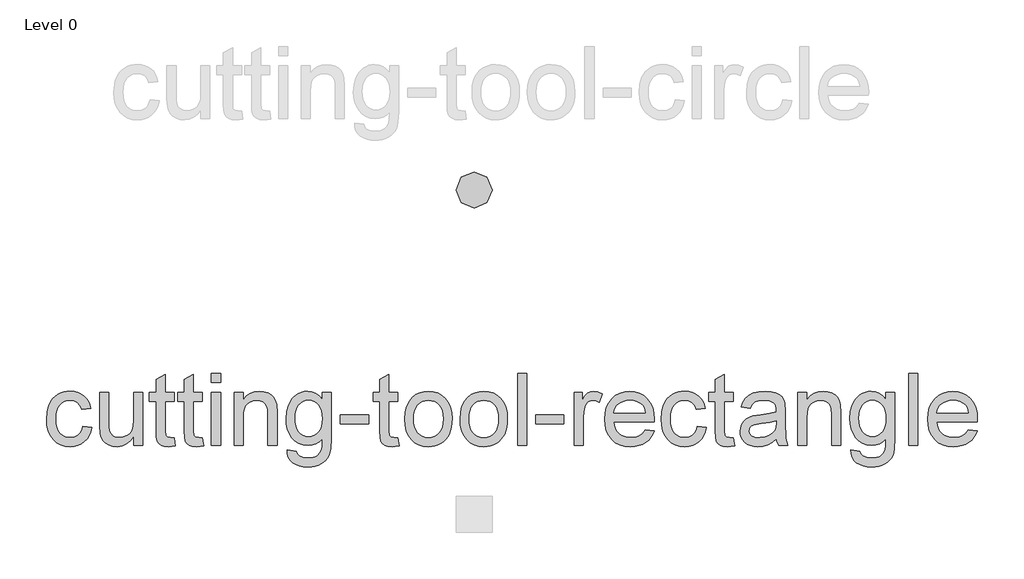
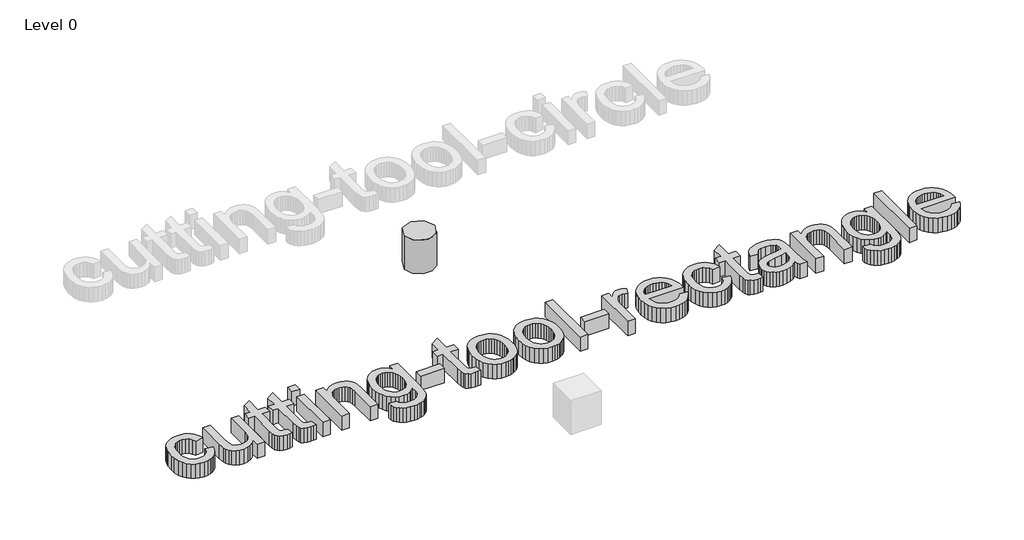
# One storey, part 2 of 3: 2 proxies.
"""IFC4 building model written with IfcOpenShell, lengths in millimetres."""

from ifc_helpers import new_model, si_unit, origin, origin_with_axes, place, context, project, spatial, polyline, outline, extrude, transform, mapped, element, save
from components import kingspan_ks_cutting_tool_circle_cutting_tool_circle_f6fe257a

model = new_model("IFC4")

# Units and contexts
model_context = context("Model", 3, world=origin())
ifc_project = project(units=[si_unit("LENGTHUNIT", "METRE", prefix="MILLI")], contexts=[model_context])

# Site, building, storey
site = spatial("IfcSite", under=ifc_project)
building = spatial("IfcBuilding", under=site)
storey = spatial("IfcBuildingStorey", under=building, Name="Level 0", Elevation=0.0)

# Proxies
placement = place(None, origin())
element("IfcBuildingElementProxy", 1, Name="24\" Arial", ObjectType="24\" Arial", at=placement, inside=storey, context=model_context, shape_type="SweptSolid", body=[
    extrude(outline(polyline([(-396.2597045, 9648.2737674), (-320.117931, 9638.7560457), (-328.3994642, 9602.8275758), (-341.3469118, 9571.0352252), (-358.9602737, 9543.3789938), (-381.23955, 9519.8588818), (-407.2459809, 9501.0883359), (-436.0408069, 9487.6808032), (-467.6240279, 9479.6362835), (-501.9956439, 9476.954777), (-544.6999137, 9480.6958736), (-582.9892248, 9491.9191636), (-616.863577, 9510.6246469), (-646.3229705, 9536.8123235), (-670.1683953, 9569.989577), (-687.2008416, 9609.6637909), (-697.4203093, 9655.8349652), (-700.8267986, 9708.5031), (-695.0083476, 9776.2610991), (-687.7352839, 9806.7521987), (-677.5529948, 9834.9846984), (-664.3917702, 9860.3916244), (-648.1819005, 9882.4060031), (-628.9233855, 9901.0278345), (-606.6162253, 9916.2571187), (-582.2688894, 9928.0985029), (-556.8898473, 9936.5566345), (-530.4790991, 9941.6315135), (-503.0366447, 9943.3231398), (-469.255239, 9940.9994772), (-438.6990768, 9934.0284897), (-411.3681582, 9922.4101771), (-387.2624832, 9906.1445394), (-366.7910164, 9885.6033627), (-350.3627224, 9861.158433), (-337.9776011, 9832.8097502), (-329.6356527, 9800.5573144), (-405.7774262, 9791.0395927), (-419.5892762, 9824.2586722), (-441.0970965, 9848.0715657), (-469.1111719, 9862.4039161), (-502.4417871, 9867.1813663), (-528.3134456, 9864.8298198), (-551.6476647, 9857.7751804), (-572.4444443, 9846.017448), (-590.7037843, 9829.5566227), (-605.5705772, 9808.0116238), (-616.1897149, 9781.0013706), (-622.5611975, 9748.5258632), (-624.6850251, 9710.5851016), (-622.6076708, 9672.0727189), (-616.3756079, 9639.2207782), (-605.9888364, 9612.0292794), (-591.4473564, 9590.4982224), (-573.5505076, 9574.134991), (-553.0976301, 9562.4469685), (-530.0887238, 9555.434155), (-504.5237887, 9553.0965505), (-465.0958831, 9558.9335908), (-448.0448475, 9566.2298911), (-432.7690901, 9576.4447115), (-419.6961647, 9589.6895879), (-409.2536253, 9606.076056), (-401.4414719, 9625.6041158), (-396.2597045, 9648.2737674)])), origin_with_axes(), (0.0, 0.0, 1.0), 152.4),
    extrude(outline(polyline([(32.0377715, 9486.4724987), (32.0377715, 9563.3578442), (4.4884287, 9525.5565023), (-27.5967034, 9498.5555438), (-64.2176248, 9482.3549687), (-105.3743354, 9476.954777), (-142.4599892, 9480.7469942), (-176.9803197, 9492.1236459), (-205.9424493, 9509.2258021), (-226.3535009, 9530.1945327), (-240.0909937, 9555.6618739), (-249.0324471, 9586.259862), (-253.4938792, 9657.0479171), (-253.4938792, 9933.8054181), (-177.3521057, 9933.8054181), (-177.3521057, 9692.8880878), (-176.199569, 9644.7046218), (-172.7419592, 9615.2591703), (-161.644147, 9589.3642751), (-142.6272929, 9569.6782063), (-116.9554694, 9557.2419644), (-85.8927488, 9553.0965505), (-53.0454554, 9557.3349109), (-22.3173422, 9570.0499923), (3.0198739, 9590.0706685), (19.6944762, 9616.2258139), (28.9519477, 9652.0473953), (32.0377715, 9701.0673799), (32.0377715, 9933.8054181), (108.179545, 9933.8054181), (108.179545, 9486.4724987), (32.0377715, 9486.4724987)])), origin_with_axes(), (0.0, 0.0, 1.0), 152.4),
    extrude(outline(polyline([(374.6757523, 9549.9735481), (384.193474, 9484.2417826), (354.0416291, 9478.7765284), (327.2358583, 9476.954777), (290.6892942, 9480.114958), (263.4373801, 9489.5955011), (244.1788651, 9504.206691), (231.6124982, 9522.7588126), (224.6972785, 9554.6208731), (222.3922053, 9609.1618798), (222.3922053, 9857.6636446), (165.2858752, 9857.6636446), (165.2858752, 9933.8054181), (222.3922053, 9933.8054181), (222.3922053, 10042.5156455), (298.5339788, 10087.2786803), (298.5339788, 9933.8054181), (374.6757523, 9933.8054181), (374.6757523, 9857.6636446), (298.5339788, 9857.6636446), (298.5339788, 9611.3925958), (302.5492677, 9572.1319939), (315.5617778, 9558.2271973), (326.5480542, 9554.3792122), (341.5124408, 9553.0965505), (374.6757523, 9549.9735481)])), origin_with_axes(), (0.0, 0.0, 1.0), 152.4),
    extrude(outline(polyline([(612.6187946, 9549.9735481), (622.1365163, 9484.2417826), (591.9846714, 9478.7765284), (565.1789005, 9476.954777), (528.6323364, 9480.114958), (501.3804223, 9489.5955011), (482.1219074, 9504.206691), (469.5555404, 9522.7588126), (462.6403208, 9554.6208731), (460.3352475, 9609.1618798), (460.3352475, 9857.6636446), (403.2289174, 9857.6636446), (403.2289174, 9933.8054181), (460.3352475, 9933.8054181), (460.3352475, 10042.5156455), (536.4770211, 10087.2786803), (536.4770211, 9933.8054181), (612.6187946, 9933.8054181), (612.6187946, 9857.6636446), (536.4770211, 9857.6636446), (536.4770211, 9611.3925958), (540.4923099, 9572.1319939), (553.50482, 9558.2271973), (564.4910964, 9554.3792122), (579.4554831, 9553.0965505), (612.6187946, 9549.9735481)])), origin_with_axes(), (0.0, 0.0, 1.0), 152.4),
    extrude(outline(polyline([(688.7605681, 10019.4649133), (688.7605681, 10095.6066868), (764.9023416, 10095.6066868), (764.9023416, 10019.4649133), (688.7605681, 10019.4649133)])), origin_with_axes(), (0.0, 0.0, 1.0), 152.4),
    extrude(outline(polyline([(688.7605681, 9486.4724987), (688.7605681, 9933.8054181), (764.9023416, 9933.8054181), (764.9023416, 9486.4724987), (688.7605681, 9486.4724987)])), origin_with_axes(), (0.0, 0.0, 1.0), 152.4),
    extrude(outline(polyline([(879.1150019, 9486.4724987), (879.1150019, 9933.8054181), (955.2567754, 9933.8054181), (955.2567754, 9871.3453695), (981.7093496, 9902.835644), (1013.4784636, 9925.3286972), (1050.5641174, 9938.8245291), (1092.9663111, 9943.3231398), (1130.4981082, 9939.6982262), (1164.8697242, 9928.8234856), (1193.5344251, 9912.0559369), (1213.9454766, 9890.7525989), (1227.7945053, 9864.9692395), (1236.7731373, 9834.7616267), (1240.7884261, 9761.1479981), (1240.7884261, 9486.4724987), (1164.6466526, 9486.4724987), (1164.6466526, 9750.8867044), (1162.4531152, 9790.2588421), (1155.8725029, 9818.2543282), (1143.7336899, 9838.3121831), (1124.8655502, 9853.8714273), (1100.6808707, 9863.8538815), (1072.5924381, 9867.1813663), (1049.471996, 9865.3131416), (1027.996707, 9859.7084676), (1008.166571, 9850.3673442), (989.9815881, 9837.2897716), (974.7894826, 9818.9886056), (963.9379786, 9793.9767022), (957.4270762, 9762.2540614), (955.2567754, 9723.8206833), (955.2567754, 9486.4724987), (879.1150019, 9486.4724987)])), origin_with_axes(), (0.0, 0.0, 1.0), 152.4),
    extrude(outline(polyline([(1326.4479213, 9448.4016119), (1402.5896948, 9438.8838902), (1410.9920585, 9415.089586), (1427.2762855, 9398.7310018), (1459.2870604, 9386.0159205), (1501.187343, 9381.7775601), (1545.8760206, 9386.5735995), (1563.926231, 9392.5686488), (1579.1136893, 9400.9617179), (1602.1644215, 9424.0124501), (1616.2922896, 9454.7963312), (1620.4191143, 9487.5506781), (1621.4972937, 9543.5788288), (1596.1600775, 9518.5948094), (1567.885752, 9500.7490812), (1536.674317, 9490.0416443), (1502.5257726, 9486.4724987), (1460.7788517, 9490.6272073), (1424.0231579, 9503.091333), (1392.2586913, 9523.864876), (1365.4854517, 9552.9478361), (1344.2425289, 9587.8399525), (1329.0690126, 9626.0409644), (1319.9649029, 9667.5508717), (1316.9301996, 9712.3696744), (1322.3768646, 9773.8444901), (1338.7168594, 9830.3745519), (1350.8277885, 9855.8651298), (1365.3739159, 9878.2791785), (1382.3552416, 9897.616698), (1401.7717656, 9913.8776883), (1423.3121172, 9926.7600733), (1446.6649255, 9935.9617769), (1471.8301907, 9941.4827991), (1498.8079125, 9943.3231398), (1534.415717, 9939.1591365), (1566.7332154, 9926.6671268), (1595.7604076, 9905.8471106), (1621.4972937, 9876.6990879), (1621.4972937, 9933.8054181), (1697.6390672, 9933.8054181), (1697.6390672, 9547.5941176), (1692.4340632, 9458.4212447), (1685.9278081, 9425.2532859), (1676.819051, 9399.6976455), (1664.8893676, 9379.0867589), (1649.9203337, 9360.7530616), (1631.9119491, 9344.6965536), (1610.864214, 9330.9172348), (1586.9909052, 9319.8566012), (1560.5057998, 9311.9561486), (1531.4088977, 9307.2158771), (1499.7001989, 9305.6357866), (1462.3961208, 9307.8618553), (1428.856376, 9314.5400614), (1399.0809644, 9325.6704048), (1373.0698861, 9341.2528857), (1352.0593296, 9361.3060933), (1337.2854833, 9385.8486168), (1328.7483472, 9414.8804564), (1326.4479213, 9448.4016119)]), holes=[polyline([(1393.0719731, 9717.5746784), (1395.1028542, 9679.9266983), (1401.1954973, 9647.7346777), (1411.3499025, 9620.9986167), (1425.5660698, 9599.7185153), (1442.8494717, 9583.485409), (1462.2055805, 9571.890333), (1483.6343963, 9564.9332874), (1507.135919, 9562.6142722), (1530.4050755, 9564.9193454), (1551.7316501, 9571.8345651), (1571.1156429, 9583.3599312), (1588.5570538, 9599.4954437), (1602.9684087, 9620.5664155), (1613.2622337, 9646.8981592), (1619.4385287, 9678.4906748), (1621.4972937, 9715.3439624), (1619.3781135, 9750.6589854), (1613.0205728, 9781.3545673), (1602.4246717, 9807.4307082), (1587.5904102, 9828.8874079), (1569.7725659, 9845.6410147), (1550.2259168, 9857.6078767), (1528.9504628, 9864.7879939), (1505.9462038, 9867.1813663), (1483.3276728, 9864.8251725), (1462.4658307, 9857.7565911), (1443.3606774, 9845.9756221), (1426.012213, 9829.4822655), (1411.6008581, 9808.3508785), (1401.3070331, 9782.6558184), (1395.1307381, 9752.397085), (1393.0719731, 9717.5746784)])]), origin_with_axes(), (0.0, 0.0, 1.0), 152.4),
    extrude(outline(polyline([(1773.7808407, 9667.3092108), (1773.7808407, 9743.4509843), (2011.723883, 9743.4509843), (2011.723883, 9667.3092108), (1773.7808407, 9667.3092108)])), origin_with_axes(), (0.0, 0.0, 1.0), 152.4),
    extrude(outline(polyline([(2259.1846469, 9549.9735481), (2268.7023686, 9484.2417826), (2238.5505237, 9478.7765284), (2211.7447528, 9476.954777), (2175.1981887, 9480.114958), (2147.9462746, 9489.5955011), (2128.6877597, 9504.206691), (2116.1213927, 9522.7588126), (2109.2061731, 9554.6208731), (2106.9010999, 9609.1618798), (2106.9010999, 9857.6636446), (2049.7947697, 9857.6636446), (2049.7947697, 9933.8054181), (2106.9010999, 9933.8054181), (2106.9010999, 10042.5156455), (2183.0428734, 10087.2786803), (2183.0428734, 9933.8054181), (2259.1846469, 9933.8054181), (2259.1846469, 9857.6636446), (2183.0428734, 9857.6636446), (2183.0428734, 9611.3925958), (2187.0581622, 9572.1319939), (2200.0706723, 9558.2271973), (2211.0569487, 9554.3792122), (2226.0213354, 9553.0965505), (2259.1846469, 9549.9735481)])), origin_with_axes(), (0.0, 0.0, 1.0), 152.4),
    extrude(outline(polyline([(2316.290977, 9710.1389584), (2320.408507, 9768.0725124), (2332.761097, 9817.994078), (2353.3487469, 9859.9036552), (2382.1714568, 9893.8012441), (2411.1893544, 9915.4670735), (2443.2187186, 9930.9426659), (2478.2595495, 9940.2280213), (2516.3118469, 9943.3231398), (2558.319018, 9939.5541592), (2596.3016056, 9928.2472173), (2630.2596097, 9909.4023143), (2660.1930303, 9883.01945), (2684.624018, 9849.9909109), (2702.0747236, 9811.2089834), (2712.5451469, 9766.6736675), (2716.035288, 9716.3849632), (2714.4923761, 9675.6279226), (2709.8636403, 9639.4624391), (2702.1490808, 9607.8885128), (2691.3486974, 9580.9061436), (2677.5972626, 9557.5998085), (2661.0295488, 9537.0539844), (2641.645556, 9519.2686715), (2619.4452843, 9504.2438696), (2595.293136, 9492.3048916), (2570.0535137, 9483.7770501), (2543.7264173, 9478.6603453), (2516.3118469, 9476.954777), (2473.6912289, 9480.7098156), (2435.3554446, 9491.9749315), (2401.3044941, 9510.7501247), (2371.5383771, 9537.0353951), (2347.3676396, 9570.3845997), (2330.1028271, 9610.351595), (2319.7439395, 9656.9363813), (2316.290977, 9710.1389584)]), holes=[polyline([(2392.4327505, 9710.2876728), (2394.6355826, 9673.3553807), (2401.2440788, 9641.377137), (2412.2582392, 9614.3529419), (2427.6780637, 9592.2827953), (2446.4346676, 9575.1388132), (2467.4591661, 9562.8931117), (2490.7515592, 9555.5456908), (2516.3118469, 9553.0965505), (2541.7420096, 9555.5596328), (2564.9414562, 9562.9488796), (2585.9101868, 9575.264291), (2604.6482013, 9592.5058669), (2620.0680258, 9614.7944378), (2631.0821862, 9642.2508341), (2637.6906824, 9674.8750559), (2639.8935145, 9712.6671032), (2637.6767404, 9748.4282694), (2631.0264183, 9779.5699945), (2619.9425481, 9806.0922786), (2604.4251297, 9827.9951215), (2585.6174053, 9845.1391036), (2564.6626167, 9857.3848051), (2541.5607639, 9864.732226), (2516.3118469, 9867.1813663), (2490.7515592, 9864.7415206), (2467.4591661, 9857.4219837), (2446.4346676, 9845.2227554), (2427.6780637, 9828.1438359), (2412.2582392, 9806.1387518), (2401.2440788, 9779.1610299), (2394.6355826, 9747.2106702), (2392.4327505, 9710.2876728)])]), origin_with_axes(), (0.0, 0.0, 1.0), 152.4),
    extrude(outline(polyline([(2782.6593398, 9710.1389584), (2786.7768698, 9768.0725124), (2799.1294598, 9817.994078), (2819.7171097, 9859.9036552), (2848.5398196, 9893.8012441), (2877.5577172, 9915.4670735), (2909.5870814, 9930.9426659), (2944.6279122, 9940.2280213), (2982.6802097, 9943.3231398), (3024.6873808, 9939.5541592), (3062.6699684, 9928.2472173), (3096.6279725, 9909.4023143), (3126.5613931, 9883.01945), (3150.9923808, 9849.9909109), (3168.4430864, 9811.2089834), (3178.9135097, 9766.6736675), (3182.4036508, 9716.3849632), (3180.8607389, 9675.6279226), (3176.2320031, 9639.4624391), (3168.5174436, 9607.8885128), (3157.7170602, 9580.9061436), (3143.9656253, 9557.5998085), (3127.3979116, 9537.0539844), (3108.0139188, 9519.2686715), (3085.8136471, 9504.2438696), (3061.6614988, 9492.3048916), (3036.4218765, 9483.7770501), (3010.0947801, 9478.6603453), (2982.6802097, 9476.954777), (2940.0595917, 9480.7098156), (2901.7238074, 9491.9749315), (2867.6728568, 9510.7501247), (2837.9067399, 9537.0353951), (2813.7360024, 9570.3845997), (2796.4711899, 9610.351595), (2786.1123023, 9656.9363813), (2782.6593398, 9710.1389584)]), holes=[polyline([(2858.8011133, 9710.2876728), (2861.0039454, 9673.3553807), (2867.6124416, 9641.377137), (2878.626602, 9614.3529419), (2894.0464265, 9592.2827953), (2912.8030303, 9575.1388132), (2933.8275288, 9562.8931117), (2957.119922, 9555.5456908), (2982.6802097, 9553.0965505), (3008.1103723, 9555.5596328), (3031.309819, 9562.9488796), (3052.2785496, 9575.264291), (3071.0165641, 9592.5058669), (3086.4363886, 9614.7944378), (3097.450549, 9642.2508341), (3104.0590452, 9674.8750559), (3106.2618773, 9712.6671032), (3104.0451032, 9748.4282694), (3097.3947811, 9779.5699945), (3086.3109109, 9806.0922786), (3070.7934925, 9827.9951215), (3051.9857681, 9845.1391036), (3031.0309795, 9857.3848051), (3007.9291267, 9864.732226), (2982.6802097, 9867.1813663), (2957.119922, 9864.7415206), (2933.8275288, 9857.4219837), (2912.8030303, 9845.2227554), (2894.0464265, 9828.1438359), (2878.626602, 9806.1387518), (2867.6124416, 9779.1610299), (2861.0039454, 9747.2106702), (2858.8011133, 9710.2876728)])]), origin_with_axes(), (0.0, 0.0, 1.0), 152.4),
    extrude(outline(polyline([(3268.063146, 9486.4724987), (3268.063146, 10095.6066868), (3344.2049195, 10095.6066868), (3344.2049195, 9486.4724987), (3268.063146, 9486.4724987)])), origin_with_axes(), (0.0, 0.0, 1.0), 152.4),
    extrude(outline(polyline([(3420.346693, 9667.3092108), (3420.346693, 9743.4509843), (3658.2897353, 9743.4509843), (3658.2897353, 9667.3092108), (3420.346693, 9667.3092108)])), origin_with_axes(), (0.0, 0.0, 1.0), 152.4),
    extrude(outline(polyline([(3743.9492305, 9486.4724987), (3743.9492305, 9933.8054181), (3810.5732823, 9933.8054181), (3810.5732823, 9867.6275095), (3835.1855157, 9905.995825), (3857.8644619, 9928.600414), (3880.6177654, 9939.6424583), (3905.4530704, 9943.3231398), (3943.3752428, 9937.4489209), (3981.8922727, 9919.8262644), (3956.4621101, 9851.5663541), (3929.6935178, 9863.2776132), (3902.9249256, 9867.1813663), (3880.1902115, 9863.4263276), (3859.8721064, 9852.1612117), (3843.4577543, 9834.2411263), (3832.4342993, 9810.5211793), (3823.1768278, 9767.9888605), (3820.091004, 9721.5899673), (3820.091004, 9486.4724987), (3743.9492305, 9486.4724987)])), origin_with_axes(), (0.0, 0.0, 1.0), 152.4),
    extrude(outline(polyline([(4342.6734105, 9619.7206023), (4417.32804, 9610.2028806), (4405.8816784, 9580.3019913), (4390.4293227, 9553.9516583), (4370.9709727, 9531.1518816), (4347.5066286, 9511.9026613), (4320.2779511, 9496.6129619), (4289.5266013, 9485.6917481), (4255.2525791, 9479.1390198), (4217.4558845, 9476.954777), (4170.2111781, 9480.7237576), (4128.1157079, 9492.0306994), (4091.1694738, 9510.8756025), (4059.3724758, 9537.2584667), (4033.8028935, 9570.4450149), (4015.538906, 9609.7009695), (4004.5805136, 9655.0263307), (4000.9277161, 9706.4210983), (4004.6176922, 9759.5586129), (4015.6876204, 9806.3943547), (4034.1375009, 9846.9283237), (4059.9673334, 9881.16052), (4091.6806795, 9908.3566661), (4127.7811005, 9927.7824848), (4168.2685963, 9939.437976), (4213.1431669, 9943.3231398), (4256.5724194, 9939.4472707), (4295.8469634, 9927.8196634), (4330.9667987, 9908.440318), (4361.9319255, 9881.3092344), (4387.2087264, 9847.1513953), (4405.2635842, 9806.6917835), (4416.0964989, 9759.9303989), (4419.7074704, 9706.8672415), (4419.2613272, 9686.3446542), (4077.0694896, 9686.3446542), (4081.4798011, 9655.960443), (4090.2493034, 9629.3498598), (4103.3779967, 9606.5129045), (4120.8658808, 9587.4495772), (4141.7463122, 9572.420128), (4165.0526473, 9561.6848072), (4190.7848861, 9555.2436147), (4218.9430285, 9553.0965505), (4259.4677029, 9557.0746607), (4293.5976581, 9569.0089914), (4321.3328939, 9589.6431146), (4342.6734105, 9619.7206023)]), holes=[polyline([(4077.0694896, 9762.4864277), (4343.5656969, 9762.4864277), (4333.2672246, 9802.7136732), (4324.4094231, 9818.5331677), (4313.0792446, 9831.4899099), (4292.3149963, 9847.1049221), (4268.6879958, 9858.2585022), (4242.1982431, 9864.9506502), (4212.8457381, 9867.1813663), (4186.0724985, 9865.4014408), (4161.5206803, 9860.0616643), (4139.1902835, 9851.1620368), (4119.081308, 9838.7025584), (4102.2068708, 9823.2594973), (4089.5800886, 9805.4091218), (4081.2009616, 9785.1514319), (4077.0694896, 9762.4864277)])]), origin_with_axes(), (0.0, 0.0, 1.0), 152.4),
    extrude(outline(polyline([(4781.3808946, 9648.2737674), (4857.5226682, 9638.7560457), (4849.2411349, 9602.8275758), (4836.2936874, 9571.0352252), (4818.6803254, 9543.3789938), (4796.4010492, 9519.8588818), (4770.3946182, 9501.0883359), (4741.5997923, 9487.6808032), (4710.0165713, 9479.6362835), (4675.6449552, 9476.954777), (4632.9406854, 9480.6958736), (4594.6513744, 9491.9191636), (4560.7770221, 9510.6246469), (4531.3176287, 9536.8123235), (4507.4722039, 9569.989577), (4490.4397576, 9609.6637909), (4480.2202898, 9655.8349652), (4476.8138006, 9708.5031), (4482.6322515, 9776.2610991), (4489.9053152, 9806.7521987), (4500.0876044, 9834.9846984), (4513.2488289, 9860.3916244), (4529.4586987, 9882.4060031), (4548.7172137, 9901.0278345), (4571.0243739, 9916.2571187), (4595.3717098, 9928.0985029), (4620.7507518, 9936.5566345), (4647.1615001, 9941.6315135), (4674.6039544, 9943.3231398), (4708.3853602, 9940.9994772), (4738.9415223, 9934.0284897), (4766.2724409, 9922.4101771), (4790.3781159, 9906.1445394), (4810.8495827, 9885.6033627), (4827.2778768, 9861.158433), (4839.662998, 9832.8097502), (4848.0049465, 9800.5573144), (4771.863173, 9791.0395927), (4758.0513229, 9824.2586722), (4736.5435026, 9848.0715657), (4708.5294273, 9862.4039161), (4675.198812, 9867.1813663), (4649.3271535, 9864.8298198), (4625.9929345, 9857.7751804), (4605.1961549, 9846.017448), (4586.9368148, 9829.5566227), (4572.070022, 9808.0116238), (4561.4508843, 9781.0013706), (4555.0794016, 9748.5258632), (4552.9555741, 9710.5851016), (4555.0329284, 9672.0727189), (4561.2649913, 9639.2207782), (4571.6517627, 9612.0292794), (4586.1932428, 9590.4982224), (4604.0900915, 9574.134991), (4624.5429691, 9562.4469685), (4647.5518754, 9555.434155), (4673.1168104, 9553.0965505), (4712.5447161, 9558.9335908), (4729.5957517, 9566.2298911), (4744.8715091, 9576.4447115), (4757.9444344, 9589.6895879), (4768.3869738, 9606.076056), (4776.1991272, 9625.6041158), (4781.3808946, 9648.2737674)])), origin_with_axes(), (0.0, 0.0, 1.0), 152.4),
    extrude(outline(polyline([(5085.9479887, 9549.9735481), (5095.4657104, 9484.2417826), (5065.3138655, 9478.7765284), (5038.5080947, 9476.954777), (5001.9615305, 9480.114958), (4974.7096165, 9489.5955011), (4955.4511015, 9504.206691), (4942.8847346, 9522.7588126), (4935.9695149, 9554.6208731), (4933.6644417, 9609.1618798), (4933.6644417, 9857.6636446), (4876.5581115, 9857.6636446), (4876.5581115, 9933.8054181), (4933.6644417, 9933.8054181), (4933.6644417, 10042.5156455), (5009.8062152, 10087.2786803), (5009.8062152, 9933.8054181), (5085.9479887, 9933.8054181), (5085.9479887, 9857.6636446), (5009.8062152, 9857.6636446), (5009.8062152, 9611.3925958), (5013.821504, 9572.1319939), (5026.8340142, 9558.2271973), (5037.8202906, 9554.3792122), (5052.7846772, 9553.0965505), (5085.9479887, 9549.9735481)])), origin_with_axes(), (0.0, 0.0, 1.0), 152.4),
    extrude(outline(polyline([(5447.6214129, 9543.5788288), (5411.2421525, 9512.3859831), (5373.7847126, 9491.9749315), (5334.3939856, 9480.7098156), (5292.2148635, 9476.954777), (5258.3126273, 9479.213377), (5228.583689, 9485.9891769), (5203.0280485, 9497.2821767), (5181.645706, 9513.0923765), (5164.7619741, 9532.4159541), (5152.7021656, 9554.2490871), (5145.4662805, 9578.5917757), (5143.0543188, 9605.4440198), (5146.6978217, 9637.0086515), (5157.6283302, 9665.6733524), (5174.4888254, 9690.2112286), (5195.9222885, 9709.3953864), (5221.1107903, 9723.8950405), (5249.2364014, 9734.3794058), (5315.1168813, 9745.8304147), (5392.9688704, 9757.8762812), (5447.1752697, 9772.0041494), (5447.6214129, 9788.9575911), (5442.3792303, 9822.9388318), (5435.826502, 9835.5237881), (5426.6526823, 9845.1716348), (5410.7960093, 9854.8008923), (5391.4817264, 9861.6789334), (5342.4803311, 9867.1813663), (5297.1224387, 9863.5192741), (5265.4462712, 9852.5329977), (5243.8455044, 9832.2148926), (5228.7138141, 9800.5573144), (5152.5720405, 9810.0750361), (5165.789033, 9851.7150685), (5185.5122804, 9884.4322368), (5213.5821237, 9909.4534349), (5251.8389035, 9928.0055564), (5298.628172, 9939.4937439), (5352.2954816, 9943.3231398), (5403.7692538, 9939.9398871), (5444.5727677, 9929.7901292), (5475.3380595, 9914.5283138), (5496.6971654, 9895.8088885), (5510.8622121, 9872.6652098), (5520.0453264, 9844.130634), (5523.7631864, 9777.5065822), (5523.7631864, 9682.7755085), (5527.6297609, 9550.4940485), (5533.3552653, 9517.7954695), (5542.7986298, 9486.4724987), (5466.6568563, 9486.4724987), (5454.4622754, 9512.9436621), (5447.6214129, 9543.5788288)]), holes=[polyline([(5447.6214129, 9695.8623758), (5396.4636588, 9683.1844731), (5324.7833174, 9672.5142148), (5259.2746235, 9660.1709195), (5242.2282353, 9651.7313772), (5229.6061005, 9640.0944753), (5221.7985944, 9626.1525002), (5219.1960924, 9610.7977382), (5224.8658289, 9588.1559706), (5241.8750386, 9569.6038491), (5269.8519353, 9557.2233751), (5308.4247332, 9553.0965505), (5349.3211936, 9557.650929), (5385.4587931, 9571.3140647), (5414.7555302, 9591.4462768), (5435.1294032, 9615.4078847), (5444.1638031, 9640.0944753), (5447.1752697, 9674.2987876), (5447.6214129, 9695.8623758)])]), origin_with_axes(), (0.0, 0.0, 1.0), 152.4),
    extrude(outline(polyline([(5628.458125, 9486.4724987), (5628.458125, 9933.8054181), (5704.5998985, 9933.8054181), (5704.5998985, 9871.3453695), (5731.0524727, 9902.835644), (5762.8215867, 9925.3286972), (5799.9072405, 9938.8245291), (5842.3094342, 9943.3231398), (5879.8412313, 9939.6982262), (5914.2128473, 9928.8234856), (5942.8775482, 9912.0559369), (5963.2885998, 9890.7525989), (5977.1376284, 9864.9692395), (5986.1162604, 9834.7616267), (5990.1315492, 9761.1479981), (5990.1315492, 9486.4724987), (5913.9897757, 9486.4724987), (5913.9897757, 9750.8867044), (5911.7962383, 9790.2588421), (5905.215626, 9818.2543282), (5893.076813, 9838.3121831), (5874.2086733, 9853.8714273), (5850.0239938, 9863.8538815), (5821.9355612, 9867.1813663), (5798.8151192, 9865.3131416), (5777.3398301, 9859.7084676), (5757.5096942, 9850.3673442), (5739.3247113, 9837.2897716), (5724.1326057, 9818.9886056), (5713.2811017, 9793.9767022), (5706.7701993, 9762.2540614), (5704.5998985, 9723.8206833), (5704.5998985, 9486.4724987), (5628.458125, 9486.4724987)])), origin_with_axes(), (0.0, 0.0, 1.0), 152.4),
    extrude(outline(polyline([(6075.7910444, 9448.4016119), (6151.932818, 9438.8838902), (6160.3351816, 9415.089586), (6176.6194086, 9398.7310018), (6208.6301835, 9386.0159205), (6250.5304661, 9381.7775601), (6295.2191437, 9386.5735995), (6313.2693542, 9392.5686488), (6328.4568124, 9400.9617179), (6351.5075446, 9424.0124501), (6365.6354128, 9454.7963312), (6369.7622374, 9487.5506781), (6370.8404168, 9543.5788288), (6345.5032007, 9518.5948094), (6317.2288751, 9500.7490812), (6286.0174401, 9490.0416443), (6251.8688957, 9486.4724987), (6210.1219748, 9490.6272073), (6173.3662811, 9503.091333), (6141.6018144, 9523.864876), (6114.8285748, 9552.9478361), (6093.585652, 9587.8399525), (6078.4121358, 9626.0409644), (6069.308026, 9667.5508717), (6066.2733227, 9712.3696744), (6071.7199877, 9773.8444901), (6088.0599825, 9830.3745519), (6100.1709116, 9855.8651298), (6114.717039, 9878.2791785), (6131.6983647, 9897.616698), (6151.1148887, 9913.8776883), (6172.6552403, 9926.7600733), (6196.0080487, 9935.9617769), (6221.1733138, 9941.4827991), (6248.1510357, 9943.3231398), (6283.7588401, 9939.1591365), (6316.0763385, 9926.6671268), (6345.1035307, 9905.8471106), (6370.8404168, 9876.6990879), (6370.8404168, 9933.8054181), (6446.9821903, 9933.8054181), (6446.9821903, 9547.5941176), (6441.7771863, 9458.4212447), (6435.2709312, 9425.2532859), (6426.1621741, 9399.6976455), (6414.2324907, 9379.0867589), (6399.2634568, 9360.7530616), (6381.2550722, 9344.6965536), (6360.2073371, 9330.9172348), (6336.3340284, 9319.8566012), (6309.8489229, 9311.9561486), (6280.7520208, 9307.2158771), (6249.0433221, 9305.6357866), (6211.7392439, 9307.8618553), (6178.1994991, 9314.5400614), (6148.4240875, 9325.6704048), (6122.4130093, 9341.2528857), (6101.4024528, 9361.3060933), (6086.6286064, 9385.8486168), (6078.0914703, 9414.8804564), (6075.7910444, 9448.4016119)]), holes=[polyline([(6142.4150963, 9717.5746784), (6144.4459773, 9679.9266983), (6150.5386204, 9647.7346777), (6160.6930257, 9620.9986167), (6174.909193, 9599.7185153), (6192.1925948, 9583.485409), (6211.5487036, 9571.890333), (6232.9775194, 9564.9332874), (6256.4790421, 9562.6142722), (6279.7481986, 9564.9193454), (6301.0747733, 9571.8345651), (6320.458766, 9583.3599312), (6337.9001769, 9599.4954437), (6352.3115319, 9620.5664155), (6362.6053568, 9646.8981592), (6368.7816518, 9678.4906748), (6370.8404168, 9715.3439624), (6368.7212366, 9750.6589854), (6362.3636959, 9781.3545673), (6351.7677948, 9807.4307082), (6336.9335333, 9828.8874079), (6319.1156891, 9845.6410147), (6299.5690399, 9857.6078767), (6278.2935859, 9864.7879939), (6255.2893269, 9867.1813663), (6232.6707959, 9864.8251725), (6211.8089538, 9857.7565911), (6192.7038006, 9845.9756221), (6175.3553362, 9829.4822655), (6160.9439812, 9808.3508785), (6150.6501562, 9782.6558184), (6144.4738613, 9752.397085), (6142.4150963, 9717.5746784)])]), origin_with_axes(), (0.0, 0.0, 1.0), 152.4),
    extrude(outline(polyline([(6561.1948506, 9486.4724987), (6561.1948506, 10095.6066868), (6637.3366241, 10095.6066868), (6637.3366241, 9486.4724987), (6561.1948506, 9486.4724987)])), origin_with_axes(), (0.0, 0.0, 1.0), 152.4),
    extrude(outline(polyline([(7064.7418137, 9619.7206023), (7139.3964433, 9610.2028806), (7127.9500817, 9580.3019913), (7112.4977259, 9553.9516583), (7093.0393759, 9531.1518816), (7069.5750318, 9511.9026613), (7042.3463544, 9496.6129619), (7011.5950045, 9485.6917481), (6977.3209823, 9479.1390198), (6939.5242878, 9476.954777), (6892.2795814, 9480.7237576), (6850.1841111, 9492.0306994), (6813.237877, 9510.8756025), (6781.4408791, 9537.2584667), (6755.8712967, 9570.4450149), (6737.6073093, 9609.7009695), (6726.6489168, 9655.0263307), (6722.9961193, 9706.4210983), (6726.6860954, 9759.5586129), (6737.7560237, 9806.3943547), (6756.2059041, 9846.9283237), (6782.0357367, 9881.16052), (6813.7490828, 9908.3566661), (6849.8495037, 9927.7824848), (6890.3369995, 9939.437976), (6935.2115701, 9943.3231398), (6978.6408227, 9939.4472707), (7017.9153666, 9927.8196634), (7053.035202, 9908.440318), (7084.0003287, 9881.3092344), (7109.2771296, 9847.1513953), (7127.3319874, 9806.6917835), (7138.1649021, 9759.9303989), (7141.7758737, 9706.8672415), (7141.3297305, 9686.3446542), (6799.1378928, 9686.3446542), (6803.5482043, 9655.960443), (6812.3177067, 9629.3498598), (6825.4463999, 9606.5129045), (6842.9342841, 9587.4495772), (6863.8147155, 9572.420128), (6887.1210506, 9561.6848072), (6912.8532893, 9555.2436147), (6941.0114318, 9553.0965505), (6981.5361062, 9557.0746607), (7015.6660613, 9569.0089914), (7043.4012971, 9589.6431146), (7064.7418137, 9619.7206023)]), holes=[polyline([(6799.1378928, 9762.4864277), (7065.6341002, 9762.4864277), (7055.3356279, 9802.7136732), (7046.4778263, 9818.5331677), (7035.1476479, 9831.4899099), (7014.3833996, 9847.1049221), (6990.7563991, 9858.2585022), (6964.2666463, 9864.9506502), (6934.9141413, 9867.1813663), (6908.1409017, 9865.4014408), (6883.5890835, 9860.0616643), (6861.2586867, 9851.1620368), (6841.1497112, 9838.7025584), (6824.275274, 9823.2594973), (6811.6484919, 9805.4091218), (6803.2693648, 9785.1514319), (6799.1378928, 9762.4864277)])]), origin_with_axes(), (0.0, 0.0, 1.0), 152.4),
])
kingspan_ks_cutting_tool_circle_cutting_tool_circle_shape = kingspan_ks_cutting_tool_circle_cutting_tool_circle_f6fe257a(model_context)
element("IfcBuildingElementProxy", 2, Name="kingspan-ks-cutting-tool-circle : cutting-tool-circle", ObjectType="kingspan-ks-cutting-tool-circle : cutting-tool-circle", at=placement, inside=storey, context=model_context, shape_type="MappedRepresentation", body=[
    mapped(kingspan_ks_cutting_tool_circle_cutting_tool_circle_shape, transform((2901.78666, 11641.2292692, 0.0), x_axis=(1.0, 0.0, 0.0), y_axis=(0.0, 1.0, 0.0), z_axis=(0.0, 0.0, 1.0))),
])

save(model, "model.ifc")
